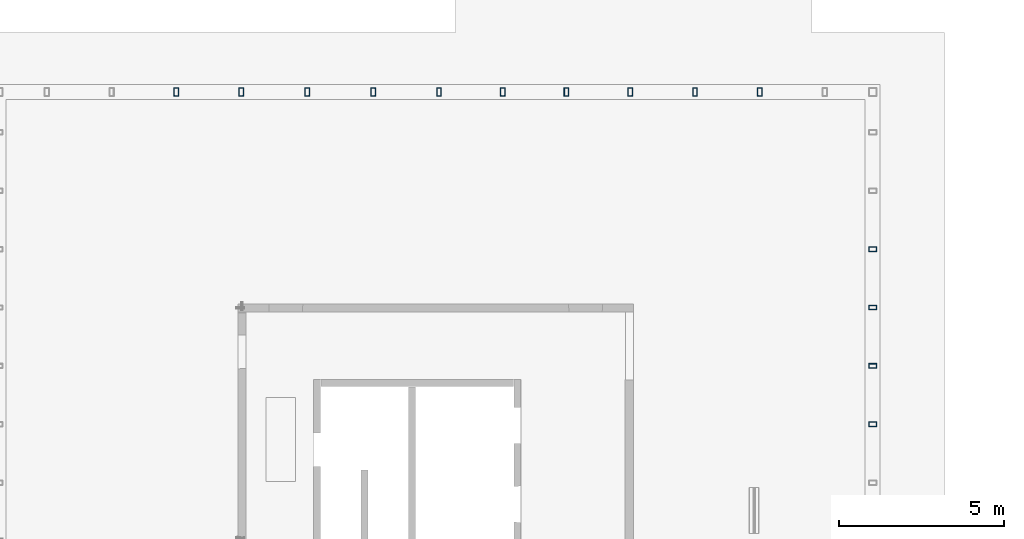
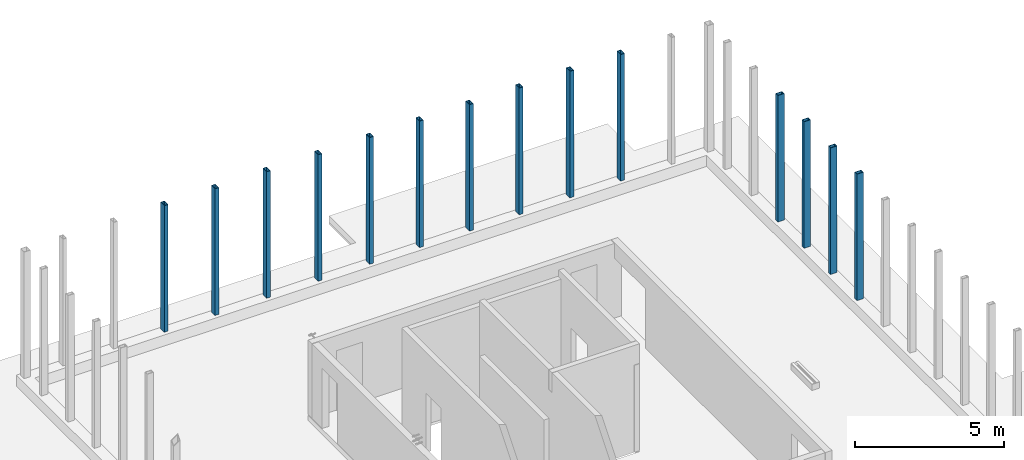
# One storey, part 4 of 9: 14 columns.
"""IFC2X3 building model written with IfcOpenShell, lengths in millimetres."""

from ifc_helpers import new_model, entity, si_unit, converted_unit, derived_unit, direction, frame, frame_2d, origin, place, context, subcontext, project, spatial, polyline, circle_curve, parameter, trimmed, segment, composite_curve, outline, extrude, source, transform, mapped, material, type_object, type_shapes, element, save


model = new_model("IFC2X3")

# Units and contexts
model_context = context("Model", 3, precision=0.01, world=origin(), true_north=direction((6.12303176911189e-17, 1.0)))
body_context = subcontext(model_context, "Body", "Model", "MODEL_VIEW")
ifc_project = project(units=[si_unit("LENGTHUNIT", "METRE", prefix="MILLI"), si_unit("AREAUNIT", "SQUARE_METRE"), si_unit("VOLUMEUNIT", "CUBIC_METRE"), converted_unit("PLANEANGLEUNIT", "DEGREE", entity("IfcRatioMeasure", 0.0174532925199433), si_unit("PLANEANGLEUNIT", "RADIAN"), dimensions=[0, 0, 0, 0, 0, 0, 0]), si_unit("MASSUNIT", "GRAM", prefix="KILO"), derived_unit("MASSDENSITYUNIT", [(si_unit("MASSUNIT", "GRAM", prefix="KILO"), 1), (si_unit("LENGTHUNIT", "METRE"), -3)]), si_unit("TIMEUNIT", "SECOND"), si_unit("FREQUENCYUNIT", "HERTZ"), si_unit("THERMODYNAMICTEMPERATUREUNIT", "DEGREE_CELSIUS"), derived_unit("THERMALTRANSMITTANCEUNIT", [(si_unit("MASSUNIT", "GRAM", prefix="KILO"), 1), (si_unit("THERMODYNAMICTEMPERATUREUNIT", "KELVIN"), -1), (si_unit("TIMEUNIT", "SECOND"), -3)]), derived_unit("VOLUMETRICFLOWRATEUNIT", [(si_unit("LENGTHUNIT", "METRE"), 3), (si_unit("TIMEUNIT", "SECOND"), -1)]), si_unit("ELECTRICCURRENTUNIT", "AMPERE"), si_unit("ELECTRICVOLTAGEUNIT", "VOLT"), si_unit("POWERUNIT", "WATT"), si_unit("FORCEUNIT", "NEWTON", prefix="KILO"), si_unit("ILLUMINANCEUNIT", "LUX"), si_unit("LUMINOUSFLUXUNIT", "LUMEN"), si_unit("LUMINOUSINTENSITYUNIT", "CANDELA"), derived_unit("USERDEFINED", [(si_unit("MASSUNIT", "GRAM", prefix="KILO"), -1), (si_unit("LENGTHUNIT", "METRE"), -2), (si_unit("TIMEUNIT", "SECOND"), 3), (si_unit("LUMINOUSFLUXUNIT", "LUMEN"), 1)]), derived_unit("LINEARVELOCITYUNIT", [(si_unit("LENGTHUNIT", "METRE"), 1), (si_unit("TIMEUNIT", "SECOND"), -1)]), si_unit("PRESSUREUNIT", "PASCAL"), derived_unit("USERDEFINED", [(si_unit("LENGTHUNIT", "METRE"), -2), (si_unit("MASSUNIT", "GRAM", prefix="KILO"), 1), (si_unit("TIMEUNIT", "SECOND"), -2)])], contexts=[model_context])

# Site, building, storey
site_placement = place(None, origin())
site = spatial("IfcSite", under=ifc_project, at=site_placement, Name="Default", CompositionType="ELEMENT")
building_placement = place(site_placement, origin())
building = spatial("IfcBuilding", under=site, at=building_placement, Name="niet gebruiken", CompositionType="ELEMENT")
storey_placement = place(building_placement, frame((0.0, 0.0, 178840.0)))
storey = spatial("IfcBuildingStorey", under=building, at=storey_placement, Name="57 zevenenvijftigste verdieping", CompositionType="ELEMENT", Elevation=178840.0)

# Columns
ifc_material = material(Name="NLRS_h2_staal")
column_type_1 = type_object("IfcColumnType", Name="kolom buisprofiel rechthoekig RHSH_250x150x16", PredefinedType="COLUMN", material=ifc_material)
shared_shape_1 = source(origin(), body_context, "Body", "SweptSolid", [
    extrude(outline(polyline([(-125.0, -75.0), (125.0, -75.0), (125.0, 75.0), (-125.0, 75.0), (-125.0, -75.0)]), holes=[composite_curve([segment(trimmed(circle_curve(frame_2d((-96.5000000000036, -46.5), x_axis=(0.0, 1.0)), 12.5), [parameter(90.0)], [parameter(180.0)], True, "PARAMETER"), False, "CONTINUOUS"), segment(polyline([(-109.0, -46.5), (-109.0, 46.5)]), True, "CONTINUOUS"), segment(trimmed(circle_curve(frame_2d((-96.5000000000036, 46.5), x_axis=(0.0, 1.0)), 12.5), [parameter(360.0)], [parameter(89.9999999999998)], True, "PARAMETER"), False, "CONTINUOUS"), segment(polyline([(-96.5000000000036, 59.0), (96.5, 59.0)]), True, "CONTINUOUS"), segment(trimmed(circle_curve(frame_2d((96.4999999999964, 46.5), x_axis=(0.0, 1.0)), 12.5), [parameter(270.0)], [parameter(360.0)], True, "PARAMETER"), False, "CONTINUOUS"), segment(polyline([(109.0, 46.5), (109.0, -46.5)]), True, "CONTINUOUS"), segment(trimmed(circle_curve(frame_2d((96.4999999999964, -46.5), x_axis=(0.0, 1.0)), 12.5), [parameter(180.0)], [parameter(270.0)], True, "PARAMETER"), False, "CONTINUOUS"), segment(polyline([(96.5, -59.0), (-96.5000000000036, -59.0)]), True, "CONTINUOUS")], self_intersect=False)]), frame((135850.0, 31130.0, 179010.0), z_axis=(0.0, 0.0, 1.0), x_axis=(0.0, -1.0, 0.0)), (0.0, 0.0, 1.0), 5190.00000000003),
])
type_shapes(column_type_1, [shared_shape_1])
column_1_placement = place(storey_placement, frame((0.0, 0.0, -178840.0)))
element("IfcColumn", 1, at=column_1_placement, inside=storey, type_object=column_type_1, material=ifc_material, Name="NLRS_28.11_SCO_TLB_stalen kolom buisprofiel rechthoekig_gen:kolom buisprofiel rechthoekig RHSH_250x150x16", ObjectType="kolom buisprofiel rechthoekig RHSH_250x150x16", context=body_context, shape_type="MappedRepresentation", body=[
    mapped(shared_shape_1, transform((0.0, 0.0, 0.0), scale=1.0)),
])
column_type_2 = type_object("IfcColumnType", Name="kolom buisprofiel rechthoekig RHSH_250x150x16", PredefinedType="COLUMN", material=ifc_material)
shared_shape_2 = source(origin(), body_context, "Body", "SweptSolid", [
    extrude(outline(polyline([(-125.0, -75.0), (125.0, -75.0), (125.0, 75.0), (-125.0, 75.0), (-125.0, -75.0)]), holes=[composite_curve([segment(trimmed(circle_curve(frame_2d((-96.5000000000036, -46.5), x_axis=(0.0, 1.0)), 12.5), [parameter(90.0)], [parameter(180.0)], True, "PARAMETER"), False, "CONTINUOUS"), segment(polyline([(-109.0, -46.5), (-109.0, 46.5)]), True, "CONTINUOUS"), segment(trimmed(circle_curve(frame_2d((-96.5000000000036, 46.5), x_axis=(0.0, 1.0)), 12.5), [parameter(360.0)], [parameter(89.9999999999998)], True, "PARAMETER"), False, "CONTINUOUS"), segment(polyline([(-96.5000000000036, 59.0), (96.5, 59.0)]), True, "CONTINUOUS"), segment(trimmed(circle_curve(frame_2d((96.4999999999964, 46.5), x_axis=(0.0, 1.0)), 12.5), [parameter(270.0)], [parameter(360.0)], True, "PARAMETER"), False, "CONTINUOUS"), segment(polyline([(109.0, 46.5), (109.0, -46.5)]), True, "CONTINUOUS"), segment(trimmed(circle_curve(frame_2d((96.4999999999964, -46.5), x_axis=(0.0, 1.0)), 12.5), [parameter(180.0)], [parameter(270.0)], True, "PARAMETER"), False, "CONTINUOUS"), segment(polyline([(96.5, -59.0), (-96.5000000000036, -59.0)]), True, "CONTINUOUS")], self_intersect=False)]), frame((147650.0, 31130.0, 179010.0), z_axis=(0.0, 0.0, 1.0), x_axis=(0.0, -1.0, 0.0)), (0.0, 0.0, 1.0), 5190.00000000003),
])
type_shapes(column_type_2, [shared_shape_2])
column_2_placement = place(storey_placement, frame((0.0, 0.0, -178840.0)))
element("IfcColumn", 2, at=column_2_placement, inside=storey, type_object=column_type_2, material=ifc_material, Name="NLRS_28.11_SCO_TLB_stalen kolom buisprofiel rechthoekig_gen:kolom buisprofiel rechthoekig RHSH_250x150x16", ObjectType="kolom buisprofiel rechthoekig RHSH_250x150x16", context=body_context, shape_type="MappedRepresentation", body=[
    mapped(shared_shape_2, transform((0.0, 0.0, 0.0), scale=1.0)),
])
column_type_3 = type_object("IfcColumnType", Name="kolom buisprofiel rechthoekig RHSH_250x150x16", PredefinedType="COLUMN", material=ifc_material)
shared_shape_3 = source(origin(), body_context, "Body", "SweptSolid", [
    extrude(outline(polyline([(-125.0, -75.0), (125.0, -75.0), (125.0, 75.0), (-125.0, 75.0), (-125.0, -75.0)]), holes=[composite_curve([segment(trimmed(circle_curve(frame_2d((-96.5, -46.5), x_axis=(0.0, 1.0)), 12.5), [parameter(90.0)], [parameter(180.0)], True, "PARAMETER"), False, "CONTINUOUS"), segment(polyline([(-109.0, -46.5), (-109.0, 46.5)]), True, "CONTINUOUS"), segment(trimmed(circle_curve(frame_2d((-96.5, 46.5), x_axis=(0.0, 1.0)), 12.5), [parameter(360.0)], [parameter(89.9999999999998)], True, "PARAMETER"), False, "CONTINUOUS"), segment(polyline([(-96.5, 59.0), (96.5000000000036, 59.0)]), True, "CONTINUOUS"), segment(trimmed(circle_curve(frame_2d((96.4999999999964, 46.5), x_axis=(0.0, 1.0)), 12.5), [parameter(270.0)], [parameter(360.0)], True, "PARAMETER"), False, "CONTINUOUS"), segment(polyline([(109.0, 46.5), (109.0, -46.5)]), True, "CONTINUOUS"), segment(trimmed(circle_curve(frame_2d((96.4999999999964, -46.5), x_axis=(0.0, 1.0)), 12.5), [parameter(180.0)], [parameter(270.0)], True, "PARAMETER"), False, "CONTINUOUS"), segment(polyline([(96.5000000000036, -59.0), (-96.5, -59.0)]), True, "CONTINUOUS")], self_intersect=False)]), frame((141850.0, 31130.0, 179010.0), z_axis=(0.0, 0.0, 1.0), x_axis=(0.0, -1.0, 0.0)), (0.0, 0.0, 1.0), 5190.00000000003),
])
type_shapes(column_type_3, [shared_shape_3])
column_3_placement = place(storey_placement, frame((0.0, 0.0, -178840.0)))
element("IfcColumn", 3, at=column_3_placement, inside=storey, type_object=column_type_3, material=ifc_material, Name="NLRS_28.11_SCO_TLB_stalen kolom buisprofiel rechthoekig_gen:kolom buisprofiel rechthoekig RHSH_250x150x16", ObjectType="kolom buisprofiel rechthoekig RHSH_250x150x16", context=body_context, shape_type="MappedRepresentation", body=[
    mapped(shared_shape_3, transform((0.0, 0.0, 0.0), scale=1.0)),
])
column_type_4 = type_object("IfcColumnType", Name="kolom buisprofiel rechthoekig RHSH_250x150x16", PredefinedType="COLUMN", material=ifc_material)
shared_shape_4 = source(origin(), body_context, "Body", "SweptSolid", [
    extrude(outline(polyline([(-125.0, -75.0), (125.0, -75.0), (125.0, 75.0), (-125.0, 75.0), (-125.0, -75.0)]), holes=[composite_curve([segment(trimmed(circle_curve(frame_2d((-96.5, -46.5000000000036), x_axis=(0.0, 1.0)), 12.5), [parameter(90.0)], [parameter(180.0)], True, "PARAMETER"), False, "CONTINUOUS"), segment(polyline([(-109.0, -46.4999999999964), (-109.0, 46.5)]), True, "CONTINUOUS"), segment(trimmed(circle_curve(frame_2d((-96.5, 46.5), x_axis=(0.0, 1.0)), 12.5), [parameter(360.0)], [parameter(89.9999999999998)], True, "PARAMETER"), False, "CONTINUOUS"), segment(polyline([(-96.5, 59.0), (96.5, 59.0)]), True, "CONTINUOUS"), segment(trimmed(circle_curve(frame_2d((96.5, 46.5), x_axis=(0.0, 1.0)), 12.5), [parameter(270.0)], [parameter(360.0)], True, "PARAMETER"), False, "CONTINUOUS"), segment(polyline([(109.0, 46.5), (109.0, -46.4999999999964)]), True, "CONTINUOUS"), segment(trimmed(circle_curve(frame_2d((96.5, -46.5000000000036), x_axis=(0.0, 1.0)), 12.5), [parameter(180.0)], [parameter(270.0)], True, "PARAMETER"), False, "CONTINUOUS"), segment(polyline([(96.5, -59.0), (-96.5, -59.0)]), True, "CONTINUOUS")], self_intersect=False)]), frame((155005.0, 24590.0, 179010.0)), (0.0, 0.0, 1.0), 5190.00000000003),
])
type_shapes(column_type_4, [shared_shape_4])
column_4_placement = place(storey_placement, frame((0.0, 0.0, -178840.0)))
element("IfcColumn", 4, at=column_4_placement, inside=storey, type_object=column_type_4, material=ifc_material, Name="NLRS_28.11_SCO_TLB_stalen kolom buisprofiel rechthoekig_gen:kolom buisprofiel rechthoekig RHSH_250x150x16", ObjectType="kolom buisprofiel rechthoekig RHSH_250x150x16", context=body_context, shape_type="MappedRepresentation", body=[
    mapped(shared_shape_4, transform((0.0, 0.0, 0.0), scale=1.0)),
])
column_type_5 = type_object("IfcColumnType", Name="kolom buisprofiel rechthoekig RHSH_250x150x16", PredefinedType="COLUMN", material=ifc_material)
shared_shape_5 = source(origin(), body_context, "Body", "SweptSolid", [
    extrude(outline(polyline([(-125.0, -75.0), (125.0, -75.0), (125.0, 75.0), (-125.0, 75.0), (-125.0, -75.0)]), holes=[composite_curve([segment(trimmed(circle_curve(frame_2d((-96.5, -46.5), x_axis=(0.0, 1.0)), 12.5), [parameter(90.0)], [parameter(180.0)], True, "PARAMETER"), False, "CONTINUOUS"), segment(polyline([(-109.0, -46.5), (-109.0, 46.5)]), True, "CONTINUOUS"), segment(trimmed(circle_curve(frame_2d((-96.5, 46.5), x_axis=(0.0, 1.0)), 12.5), [parameter(360.0)], [parameter(89.9999999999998)], True, "PARAMETER"), False, "CONTINUOUS"), segment(polyline([(-96.5, 59.0), (96.5000000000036, 59.0)]), True, "CONTINUOUS"), segment(trimmed(circle_curve(frame_2d((96.4999999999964, 46.5), x_axis=(0.0, 1.0)), 12.5), [parameter(270.0)], [parameter(360.0)], True, "PARAMETER"), False, "CONTINUOUS"), segment(polyline([(109.0, 46.5), (109.0, -46.5)]), True, "CONTINUOUS"), segment(trimmed(circle_curve(frame_2d((96.4999999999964, -46.5), x_axis=(0.0, 1.0)), 12.5), [parameter(180.0)], [parameter(270.0)], True, "PARAMETER"), False, "CONTINUOUS"), segment(polyline([(96.5000000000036, -59.0), (-96.5, -59.0)]), True, "CONTINUOUS")], self_intersect=False)]), frame((133883.333333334, 31130.0, 179010.0), z_axis=(0.0, 0.0, 1.0), x_axis=(0.0, -1.0, 0.0)), (0.0, 0.0, 1.0), 5190.00000000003),
])
type_shapes(column_type_5, [shared_shape_5])
column_5_placement = place(storey_placement, frame((0.0, 0.0, -178840.0)))
element("IfcColumn", 5, at=column_5_placement, inside=storey, type_object=column_type_5, material=ifc_material, Name="NLRS_28.11_SCO_TLB_stalen kolom buisprofiel rechthoekig_gen:kolom buisprofiel rechthoekig RHSH_250x150x16", ObjectType="kolom buisprofiel rechthoekig RHSH_250x150x16", context=body_context, shape_type="MappedRepresentation", body=[
    mapped(shared_shape_5, transform((0.0, 0.0, 0.0), scale=1.0)),
])
column_type_6 = type_object("IfcColumnType", Name="kolom buisprofiel rechthoekig RHSH_250x150x16", PredefinedType="COLUMN", material=ifc_material)
shared_shape_6 = source(origin(), body_context, "Body", "SweptSolid", [
    extrude(outline(polyline([(-125.0, -75.0), (125.0, -75.0), (125.0, 75.0), (-125.0, 75.0), (-125.0, -75.0)]), holes=[composite_curve([segment(trimmed(circle_curve(frame_2d((-96.5, -46.5), x_axis=(0.0, 1.0)), 12.5), [parameter(90.0)], [parameter(180.0)], True, "PARAMETER"), False, "CONTINUOUS"), segment(polyline([(-109.0, -46.5), (-109.0, 46.4999999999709)]), True, "CONTINUOUS"), segment(trimmed(circle_curve(frame_2d((-96.5, 46.4999999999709), x_axis=(0.0, 1.0)), 12.5), [parameter(360.0)], [parameter(89.9999999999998)], True, "PARAMETER"), False, "CONTINUOUS"), segment(polyline([(-96.5, 59.0), (96.5000000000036, 59.0)]), True, "CONTINUOUS"), segment(trimmed(circle_curve(frame_2d((96.5, 46.4999999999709), x_axis=(0.0, 1.0)), 12.5), [parameter(270.0)], [parameter(360.0)], True, "PARAMETER"), False, "CONTINUOUS"), segment(polyline([(109.0, 46.4999999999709), (109.0, -46.5)]), True, "CONTINUOUS"), segment(trimmed(circle_curve(frame_2d((96.5, -46.5), x_axis=(0.0, 1.0)), 12.5), [parameter(180.0)], [parameter(270.0)], True, "PARAMETER"), False, "CONTINUOUS"), segment(polyline([(96.5000000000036, -59.0), (-96.5, -59.0)]), True, "CONTINUOUS")], self_intersect=False)]), frame((137850.0, 31130.0, 179010.0), z_axis=(0.0, 0.0, 1.0), x_axis=(0.0, -1.0, 0.0)), (0.0, 0.0, 1.0), 5190.00000000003),
])
type_shapes(column_type_6, [shared_shape_6])
column_6_placement = place(storey_placement, frame((0.0, 0.0, -178840.0)))
element("IfcColumn", 6, at=column_6_placement, inside=storey, type_object=column_type_6, material=ifc_material, Name="NLRS_28.11_SCO_TLB_stalen kolom buisprofiel rechthoekig_gen:kolom buisprofiel rechthoekig RHSH_250x150x16", ObjectType="kolom buisprofiel rechthoekig RHSH_250x150x16", context=body_context, shape_type="MappedRepresentation", body=[
    mapped(shared_shape_6, transform((0.0, 0.0, 0.0), scale=1.0)),
])
column_type_7 = type_object("IfcColumnType", Name="kolom buisprofiel rechthoekig RHSH_250x150x16", PredefinedType="COLUMN", material=ifc_material)
shared_shape_7 = source(origin(), body_context, "Body", "SweptSolid", [
    extrude(outline(polyline([(-125.0, -75.0), (125.0, -75.0), (125.0, 75.0), (-125.0, 75.0), (-125.0, -75.0)]), holes=[composite_curve([segment(trimmed(circle_curve(frame_2d((-96.5000000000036, -46.5), x_axis=(0.0, 1.0)), 12.5), [parameter(90.0)], [parameter(180.0)], True, "PARAMETER"), False, "CONTINUOUS"), segment(polyline([(-109.0, -46.5), (-109.0, 46.5)]), True, "CONTINUOUS"), segment(trimmed(circle_curve(frame_2d((-96.5000000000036, 46.5), x_axis=(0.0, 1.0)), 12.5), [parameter(360.0)], [parameter(89.9999999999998)], True, "PARAMETER"), False, "CONTINUOUS"), segment(polyline([(-96.5000000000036, 59.0), (96.5, 59.0)]), True, "CONTINUOUS"), segment(trimmed(circle_curve(frame_2d((96.4999999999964, 46.5), x_axis=(0.0, 1.0)), 12.5), [parameter(270.0)], [parameter(360.0)], True, "PARAMETER"), False, "CONTINUOUS"), segment(polyline([(109.0, 46.5), (109.0, -46.5)]), True, "CONTINUOUS"), segment(trimmed(circle_curve(frame_2d((96.4999999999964, -46.5), x_axis=(0.0, 1.0)), 12.5), [parameter(180.0)], [parameter(270.0)], True, "PARAMETER"), False, "CONTINUOUS"), segment(polyline([(96.5, -59.0), (-96.5000000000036, -59.0)]), True, "CONTINUOUS")], self_intersect=False)]), frame((139850.0, 31130.0, 179010.0), z_axis=(0.0, 0.0, 1.0), x_axis=(0.0, -1.0, 0.0)), (0.0, 0.0, 1.0), 5190.00000000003),
])
type_shapes(column_type_7, [shared_shape_7])
column_7_placement = place(storey_placement, frame((0.0, 0.0, -178840.0)))
element("IfcColumn", 7, at=column_7_placement, inside=storey, type_object=column_type_7, material=ifc_material, Name="NLRS_28.11_SCO_TLB_stalen kolom buisprofiel rechthoekig_gen:kolom buisprofiel rechthoekig RHSH_250x150x16", ObjectType="kolom buisprofiel rechthoekig RHSH_250x150x16", context=body_context, shape_type="MappedRepresentation", body=[
    mapped(shared_shape_7, transform((0.0, 0.0, 0.0), scale=1.0)),
])
column_type_8 = type_object("IfcColumnType", Name="kolom buisprofiel rechthoekig RHSH_250x150x16", PredefinedType="COLUMN", material=ifc_material)
shared_shape_8 = source(origin(), body_context, "Body", "SweptSolid", [
    extrude(outline(polyline([(-125.0, -75.0), (125.0, -75.0), (125.0, 75.0), (-125.0, 75.0), (-125.0, -75.0)]), holes=[composite_curve([segment(trimmed(circle_curve(frame_2d((-96.5, -46.5), x_axis=(0.0, 1.0)), 12.5), [parameter(90.0)], [parameter(180.0)], True, "PARAMETER"), False, "CONTINUOUS"), segment(polyline([(-109.0, -46.5), (-109.0, 46.5)]), True, "CONTINUOUS"), segment(trimmed(circle_curve(frame_2d((-96.5, 46.5), x_axis=(0.0, 1.0)), 12.5), [parameter(360.0)], [parameter(89.9999999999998)], True, "PARAMETER"), False, "CONTINUOUS"), segment(polyline([(-96.5, 59.0), (96.5000000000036, 59.0)]), True, "CONTINUOUS"), segment(trimmed(circle_curve(frame_2d((96.5, 46.5), x_axis=(0.0, 1.0)), 12.5), [parameter(270.0)], [parameter(360.0)], True, "PARAMETER"), False, "CONTINUOUS"), segment(polyline([(109.0, 46.5), (109.0, -46.5)]), True, "CONTINUOUS"), segment(trimmed(circle_curve(frame_2d((96.5, -46.5), x_axis=(0.0, 1.0)), 12.5), [parameter(180.0)], [parameter(270.0)], True, "PARAMETER"), False, "CONTINUOUS"), segment(polyline([(96.5000000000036, -59.0), (-96.5, -59.0)]), True, "CONTINUOUS")], self_intersect=False)]), frame((143783.333333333, 31130.0, 179010.0), z_axis=(0.0, 0.0, 1.0), x_axis=(0.0, -1.0, 0.0)), (0.0, 0.0, 1.0), 5190.00000000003),
])
type_shapes(column_type_8, [shared_shape_8])
column_8_placement = place(storey_placement, frame((0.0, 0.0, -178840.0)))
element("IfcColumn", 8, at=column_8_placement, inside=storey, type_object=column_type_8, material=ifc_material, Name="NLRS_28.11_SCO_TLB_stalen kolom buisprofiel rechthoekig_gen:kolom buisprofiel rechthoekig RHSH_250x150x16", ObjectType="kolom buisprofiel rechthoekig RHSH_250x150x16", context=body_context, shape_type="MappedRepresentation", body=[
    mapped(shared_shape_8, transform((0.0, 0.0, 0.0), scale=1.0)),
])
column_type_9 = type_object("IfcColumnType", Name="kolom buisprofiel rechthoekig RHSH_250x150x16", PredefinedType="COLUMN", material=ifc_material)
shared_shape_9 = source(origin(), body_context, "Body", "SweptSolid", [
    extrude(outline(polyline([(-125.0, -75.0), (125.0, -75.0), (125.0, 75.0), (-125.0, 75.0), (-125.0, -75.0)]), holes=[composite_curve([segment(trimmed(circle_curve(frame_2d((-96.5000000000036, -46.5), x_axis=(0.0, 1.0)), 12.5), [parameter(90.0)], [parameter(180.0)], True, "PARAMETER"), False, "CONTINUOUS"), segment(polyline([(-109.0, -46.5), (-109.0, 46.5)]), True, "CONTINUOUS"), segment(trimmed(circle_curve(frame_2d((-96.5000000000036, 46.5), x_axis=(0.0, 1.0)), 12.5), [parameter(360.0)], [parameter(89.9999999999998)], True, "PARAMETER"), False, "CONTINUOUS"), segment(polyline([(-96.5000000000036, 59.0), (96.5, 59.0)]), True, "CONTINUOUS"), segment(trimmed(circle_curve(frame_2d((96.4999999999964, 46.5), x_axis=(0.0, 1.0)), 12.5), [parameter(270.0)], [parameter(360.0)], True, "PARAMETER"), False, "CONTINUOUS"), segment(polyline([(109.0, 46.5), (109.0, -46.5)]), True, "CONTINUOUS"), segment(trimmed(circle_curve(frame_2d((96.4999999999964, -46.5), x_axis=(0.0, 1.0)), 12.5), [parameter(180.0)], [parameter(270.0)], True, "PARAMETER"), False, "CONTINUOUS"), segment(polyline([(96.5, -59.0), (-96.5000000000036, -59.0)]), True, "CONTINUOUS")], self_intersect=False)]), frame((145716.666666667, 31130.0, 179010.0), z_axis=(0.0, 0.0, 1.0), x_axis=(0.0, -1.0, 0.0)), (0.0, 0.0, 1.0), 5190.00000000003),
])
type_shapes(column_type_9, [shared_shape_9])
column_9_placement = place(storey_placement, frame((0.0, 0.0, -178840.0)))
element("IfcColumn", 9, at=column_9_placement, inside=storey, type_object=column_type_9, material=ifc_material, Name="NLRS_28.11_SCO_TLB_stalen kolom buisprofiel rechthoekig_gen:kolom buisprofiel rechthoekig RHSH_250x150x16", ObjectType="kolom buisprofiel rechthoekig RHSH_250x150x16", context=body_context, shape_type="MappedRepresentation", body=[
    mapped(shared_shape_9, transform((0.0, 0.0, 0.0), scale=1.0)),
])
column_type_10 = type_object("IfcColumnType", Name="kolom buisprofiel rechthoekig RHSH_250x150x16", PredefinedType="COLUMN", material=ifc_material)
shared_shape_10 = source(origin(), body_context, "Body", "SweptSolid", [
    extrude(outline(polyline([(-125.0, -75.0), (125.0, -75.0), (125.0, 75.0), (-125.0, 75.0), (-125.0, -75.0)]), holes=[composite_curve([segment(trimmed(circle_curve(frame_2d((-96.4999999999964, -46.5), x_axis=(0.0, 1.0)), 12.5), [parameter(90.0)], [parameter(180.0)], True, "PARAMETER"), False, "CONTINUOUS"), segment(polyline([(-109.0, -46.5), (-109.0, 46.5)]), True, "CONTINUOUS"), segment(trimmed(circle_curve(frame_2d((-96.4999999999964, 46.5), x_axis=(0.0, 1.0)), 12.5), [parameter(360.0)], [parameter(89.9999999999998)], True, "PARAMETER"), False, "CONTINUOUS"), segment(polyline([(-96.4999999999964, 59.0), (96.5000000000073, 59.0)]), True, "CONTINUOUS"), segment(trimmed(circle_curve(frame_2d((96.5, 46.5), x_axis=(0.0, 1.0)), 12.5), [parameter(270.0)], [parameter(360.0)], True, "PARAMETER"), False, "CONTINUOUS"), segment(polyline([(109.0, 46.5), (109.0, -46.5)]), True, "CONTINUOUS"), segment(trimmed(circle_curve(frame_2d((96.5, -46.5), x_axis=(0.0, 1.0)), 12.5), [parameter(180.0)], [parameter(270.0)], True, "PARAMETER"), False, "CONTINUOUS"), segment(polyline([(96.5000000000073, -59.0), (-96.4999999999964, -59.0)]), True, "CONTINUOUS")], self_intersect=False)]), frame((149616.66666667, 31130.0, 179010.0), z_axis=(0.0, 0.0, 1.0), x_axis=(0.0, -1.0, 0.0)), (0.0, 0.0, 1.0), 5190.00000000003),
])
type_shapes(column_type_10, [shared_shape_10])
column_10_placement = place(storey_placement, frame((0.0, 0.0, -178840.0)))
element("IfcColumn", 10, at=column_10_placement, inside=storey, type_object=column_type_10, material=ifc_material, Name="NLRS_28.11_SCO_TLB_stalen kolom buisprofiel rechthoekig_gen:kolom buisprofiel rechthoekig RHSH_250x150x16", ObjectType="kolom buisprofiel rechthoekig RHSH_250x150x16", context=body_context, shape_type="MappedRepresentation", body=[
    mapped(shared_shape_10, transform((0.0, 0.0, 0.0), scale=1.0)),
])
column_type_11 = type_object("IfcColumnType", Name="kolom buisprofiel rechthoekig RHSH_250x150x16", PredefinedType="COLUMN", material=ifc_material)
shared_shape_11 = source(origin(), body_context, "Body", "SweptSolid", [
    extrude(outline(polyline([(-125.0, -75.0), (125.0, -75.0), (125.0, 75.0), (-125.0, 75.0), (-125.0, -75.0)]), holes=[composite_curve([segment(trimmed(circle_curve(frame_2d((-96.5000000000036, -46.5), x_axis=(0.0, 1.0)), 12.5), [parameter(90.0)], [parameter(180.0)], True, "PARAMETER"), False, "CONTINUOUS"), segment(polyline([(-109.0, -46.5), (-109.0, 46.5)]), True, "CONTINUOUS"), segment(trimmed(circle_curve(frame_2d((-96.5000000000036, 46.5), x_axis=(0.0, 1.0)), 12.5), [parameter(360.0)], [parameter(89.9999999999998)], True, "PARAMETER"), False, "CONTINUOUS"), segment(polyline([(-96.5000000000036, 59.0), (96.5, 59.0)]), True, "CONTINUOUS"), segment(trimmed(circle_curve(frame_2d((96.4999999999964, 46.5), x_axis=(0.0, 1.0)), 12.5), [parameter(270.0)], [parameter(360.0)], True, "PARAMETER"), False, "CONTINUOUS"), segment(polyline([(109.0, 46.5), (109.0, -46.5)]), True, "CONTINUOUS"), segment(trimmed(circle_curve(frame_2d((96.4999999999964, -46.5), x_axis=(0.0, 1.0)), 12.5), [parameter(180.0)], [parameter(270.0)], True, "PARAMETER"), False, "CONTINUOUS"), segment(polyline([(96.5, -59.0), (-96.5000000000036, -59.0)]), True, "CONTINUOUS")], self_intersect=False)]), frame((151583.333333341, 31130.0, 179010.0), z_axis=(0.0, 0.0, 1.0), x_axis=(0.0, -1.0, 0.0)), (0.0, 0.0, 1.0), 5190.00000000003),
])
type_shapes(column_type_11, [shared_shape_11])
column_11_placement = place(storey_placement, frame((0.0, 0.0, -178840.0)))
element("IfcColumn", 11, at=column_11_placement, inside=storey, type_object=column_type_11, material=ifc_material, Name="NLRS_28.11_SCO_TLB_stalen kolom buisprofiel rechthoekig_gen:kolom buisprofiel rechthoekig RHSH_250x150x16", ObjectType="kolom buisprofiel rechthoekig RHSH_250x150x16", context=body_context, shape_type="MappedRepresentation", body=[
    mapped(shared_shape_11, transform((0.0, 0.0, 0.0), scale=1.0)),
])
column_type_12 = type_object("IfcColumnType", Name="kolom buisprofiel rechthoekig RHSH_250x150x16", PredefinedType="COLUMN", material=ifc_material)
shared_shape_12 = source(origin(), body_context, "Body", "SweptSolid", [
    extrude(outline(polyline([(-125.0, -75.0), (125.0, -75.0), (125.0, 75.0), (-125.0, 75.0), (-125.0, -75.0)]), holes=[composite_curve([segment(trimmed(circle_curve(frame_2d((-96.5, -46.5), x_axis=(0.0, 1.0)), 12.5), [parameter(90.0)], [parameter(180.0)], True, "PARAMETER"), False, "CONTINUOUS"), segment(polyline([(-109.0, -46.4999999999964), (-109.0, 46.5)]), True, "CONTINUOUS"), segment(trimmed(circle_curve(frame_2d((-96.5, 46.5), x_axis=(0.0, 1.0)), 12.5), [parameter(360.0)], [parameter(89.9999999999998)], True, "PARAMETER"), False, "CONTINUOUS"), segment(polyline([(-96.5, 59.0), (96.5, 59.0)]), True, "CONTINUOUS"), segment(trimmed(circle_curve(frame_2d((96.5, 46.5), x_axis=(0.0, 1.0)), 12.5), [parameter(270.0)], [parameter(360.0)], True, "PARAMETER"), False, "CONTINUOUS"), segment(polyline([(109.0, 46.5), (109.0, -46.4999999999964)]), True, "CONTINUOUS"), segment(trimmed(circle_curve(frame_2d((96.5, -46.5), x_axis=(0.0, 1.0)), 12.5), [parameter(180.0)], [parameter(270.0)], True, "PARAMETER"), False, "CONTINUOUS"), segment(polyline([(96.5, -59.0), (-96.5, -59.0)]), True, "CONTINUOUS")], self_intersect=False)]), frame((155005.0, 26362.4999999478, 179010.0)), (0.0, 0.0, 1.0), 5190.00000000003),
])
type_shapes(column_type_12, [shared_shape_12])
column_12_placement = place(storey_placement, frame((0.0, 0.0, -178840.0)))
element("IfcColumn", 12, at=column_12_placement, inside=storey, type_object=column_type_12, material=ifc_material, Name="NLRS_28.11_SCO_TLB_stalen kolom buisprofiel rechthoekig_gen:kolom buisprofiel rechthoekig RHSH_250x150x16", ObjectType="kolom buisprofiel rechthoekig RHSH_250x150x16", context=body_context, shape_type="MappedRepresentation", body=[
    mapped(shared_shape_12, transform((0.0, 0.0, 0.0), scale=1.0)),
])
column_type_13 = type_object("IfcColumnType", Name="kolom buisprofiel rechthoekig RHSH_250x150x16", PredefinedType="COLUMN", material=ifc_material)
shared_shape_13 = source(origin(), body_context, "Body", "SweptSolid", [
    extrude(outline(polyline([(-125.0, -75.0), (125.0, -75.0), (125.0, 75.0), (-125.0, 75.0), (-125.0, -75.0)]), holes=[composite_curve([segment(trimmed(circle_curve(frame_2d((-96.5, -46.5000000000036), x_axis=(0.0, 1.0)), 12.5), [parameter(90.0)], [parameter(180.0)], True, "PARAMETER"), False, "CONTINUOUS"), segment(polyline([(-109.0, -46.5), (-109.0, 46.4999999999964)]), True, "CONTINUOUS"), segment(trimmed(circle_curve(frame_2d((-96.5, 46.4999999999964), x_axis=(0.0, 1.0)), 12.5), [parameter(360.0)], [parameter(89.9999999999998)], True, "PARAMETER"), False, "CONTINUOUS"), segment(polyline([(-96.4999999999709, 59.0), (96.5000000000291, 59.0)]), True, "CONTINUOUS"), segment(trimmed(circle_curve(frame_2d((96.5000000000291, 46.4999999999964), x_axis=(0.0, 1.0)), 12.5), [parameter(270.0)], [parameter(360.0)], True, "PARAMETER"), False, "CONTINUOUS"), segment(polyline([(109.0, 46.4999999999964), (109.0, -46.5)]), True, "CONTINUOUS"), segment(trimmed(circle_curve(frame_2d((96.5000000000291, -46.5000000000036), x_axis=(0.0, 1.0)), 12.5), [parameter(180.0)], [parameter(270.0)], True, "PARAMETER"), False, "CONTINUOUS"), segment(polyline([(96.5000000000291, -59.0), (-96.4999999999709, -59.0)]), True, "CONTINUOUS")], self_intersect=False)]), frame((155005.0, 22817.4999999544, 179010.0)), (0.0, 0.0, 1.0), 5190.00000000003),
])
type_shapes(column_type_13, [shared_shape_13])
column_13_placement = place(storey_placement, frame((0.0, 0.0, -178840.0)))
element("IfcColumn", 13, at=column_13_placement, inside=storey, type_object=column_type_13, material=ifc_material, Name="NLRS_28.11_SCO_TLB_stalen kolom buisprofiel rechthoekig_gen:kolom buisprofiel rechthoekig RHSH_250x150x16", ObjectType="kolom buisprofiel rechthoekig RHSH_250x150x16", context=body_context, shape_type="MappedRepresentation", body=[
    mapped(shared_shape_13, transform((0.0, 0.0, 0.0), scale=1.0)),
])
column_type_14 = type_object("IfcColumnType", Name="kolom buisprofiel rechthoekig RHSH_250x150x16", PredefinedType="COLUMN", material=ifc_material)
shared_shape_14 = source(origin(), body_context, "Body", "SweptSolid", [
    extrude(outline(polyline([(-125.0, -75.0), (125.0, -75.0), (125.0, 75.0), (-125.0, 75.0), (-125.0, -75.0)]), holes=[composite_curve([segment(trimmed(circle_curve(frame_2d((-96.5, -46.5000000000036), x_axis=(0.0, 1.0)), 12.5), [parameter(90.0)], [parameter(180.0)], True, "PARAMETER"), False, "CONTINUOUS"), segment(polyline([(-109.0, -46.5), (-109.0, 46.4999999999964)]), True, "CONTINUOUS"), segment(trimmed(circle_curve(frame_2d((-96.5, 46.4999999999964), x_axis=(0.0, 1.0)), 12.5), [parameter(360.0)], [parameter(89.9999999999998)], True, "PARAMETER"), False, "CONTINUOUS"), segment(polyline([(-96.4999999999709, 59.0), (96.5000000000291, 59.0)]), True, "CONTINUOUS"), segment(trimmed(circle_curve(frame_2d((96.5000000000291, 46.4999999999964), x_axis=(0.0, 1.0)), 12.5), [parameter(270.0)], [parameter(360.0)], True, "PARAMETER"), False, "CONTINUOUS"), segment(polyline([(109.0, 46.4999999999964), (109.0, -46.5)]), True, "CONTINUOUS"), segment(trimmed(circle_curve(frame_2d((96.5000000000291, -46.5000000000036), x_axis=(0.0, 1.0)), 12.5), [parameter(180.0)], [parameter(270.0)], True, "PARAMETER"), False, "CONTINUOUS"), segment(polyline([(96.5000000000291, -59.0), (-96.4999999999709, -59.0)]), True, "CONTINUOUS")], self_intersect=False)]), frame((155005.0, 21045.0, 179010.0)), (0.0, 0.0, 1.0), 5190.00000000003),
])
type_shapes(column_type_14, [shared_shape_14])
column_14_placement = place(storey_placement, frame((0.0, 0.0, -178840.0)))
element("IfcColumn", 14, at=column_14_placement, inside=storey, type_object=column_type_14, material=ifc_material, Name="NLRS_28.11_SCO_TLB_stalen kolom buisprofiel rechthoekig_gen:kolom buisprofiel rechthoekig RHSH_250x150x16", ObjectType="kolom buisprofiel rechthoekig RHSH_250x150x16", context=body_context, shape_type="MappedRepresentation", body=[
    mapped(shared_shape_14, transform((0.0, 0.0, 0.0), scale=1.0)),
])

save(model, "model.ifc")
